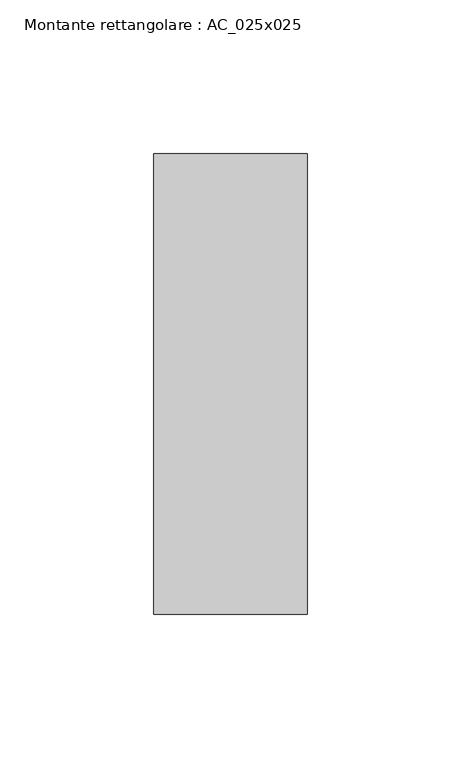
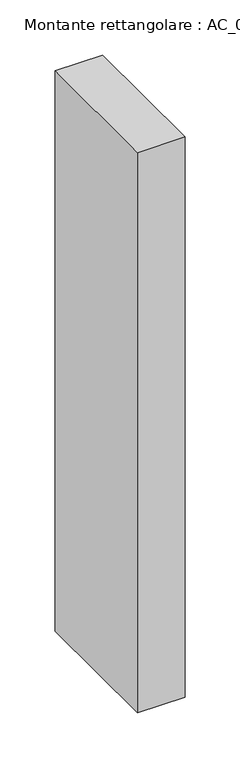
"""IFC4 building model written with IfcOpenShell, lengths in millimetres: member geometry, Montante rettangolare : AC_025x025."""

from ifc_helpers import new_model, si_unit, frame, origin, place, context, project, spatial, polyline, outline, extrude, source, transform, mapped, element, save


def montante_rettangolare_ac_025x025_64329925(model_context):
    return source(origin(), model_context, "Body", "SweptSolid", [
        extrude(outline(polyline([(0.0, 75.0), (0.0, -75.0), (-50.0, -75.0), (-50.0, 75.0), (0.0, 75.0)])), frame((0.0, 0.0, -621.6536096), z_axis=(0.0, 0.0, 1.0), x_axis=(1.0, 0.0, 0.0)), (0.0, 0.0, 1.0), 621.6536096),
    ])


if __name__ == "__main__":
    model = new_model("IFC4")
    model_context = context("Model", 3, world=origin())
    ifc_project = project(units=[si_unit("LENGTHUNIT", "METRE", prefix="MILLI")], contexts=[model_context])
    site = spatial("IfcSite", under=ifc_project)
    building = spatial("IfcBuilding", under=site)
    placement = place(None, origin())
    montante_rettangolare_ac_025x025_shape = montante_rettangolare_ac_025x025_64329925(model_context)
    element("IfcMember", 1, ObjectType="Montante rettangolare : AC_025x025", at=placement, inside=building, context=model_context, shape_type="MappedRepresentation", body=[
        mapped(montante_rettangolare_ac_025x025_shape, transform((0.0, 0.0, 0.0), x_axis=(1.0, 0.0, 0.0), y_axis=(0.0, 1.0, 0.0), z_axis=(0.0, 0.0, 1.0))),
    ])
    save(model, "model.ifc")
